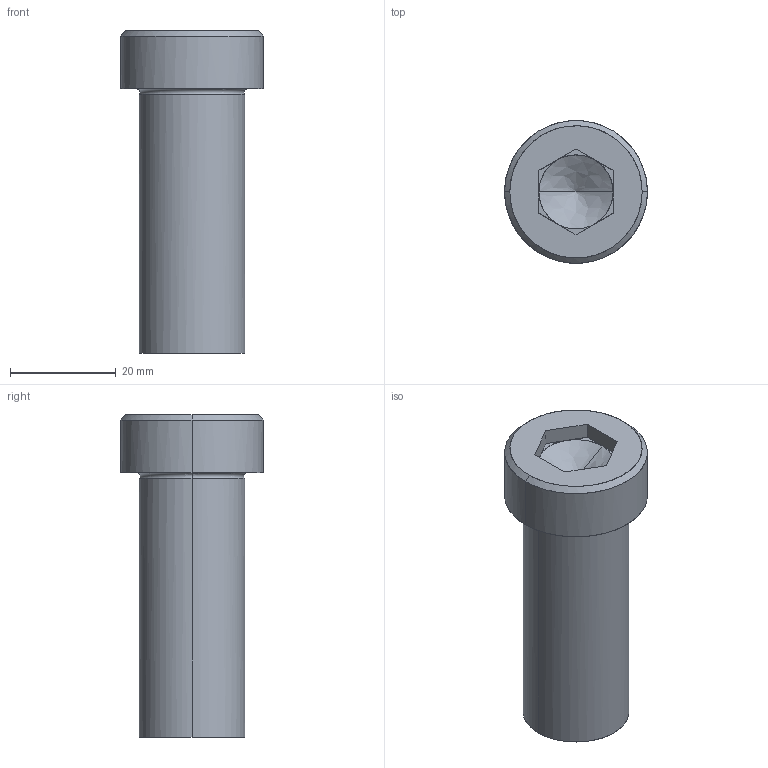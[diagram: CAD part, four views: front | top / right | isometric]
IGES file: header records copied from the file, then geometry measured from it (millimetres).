
Global section: file name: E:\UnigraphicsGraphicData\MISUMI_PRESS-PARTS\IGES\3d_sbtcn20-50_05132_r00.igs; native system: NX V5.0; preprocessor: UGS NX IGES V5.0; author: MISUMI; date: 20110105.162458; units: millimetre
Bounding box: 27 x 27 x 61 mm (x, y, z)
Surface area: 6170.6 mm2 (no closed solid volume)
Topology: 0 solids, 0 shells, 34 faces, 194 edges, 190 vertices
Faces by surface type: bspline 34
